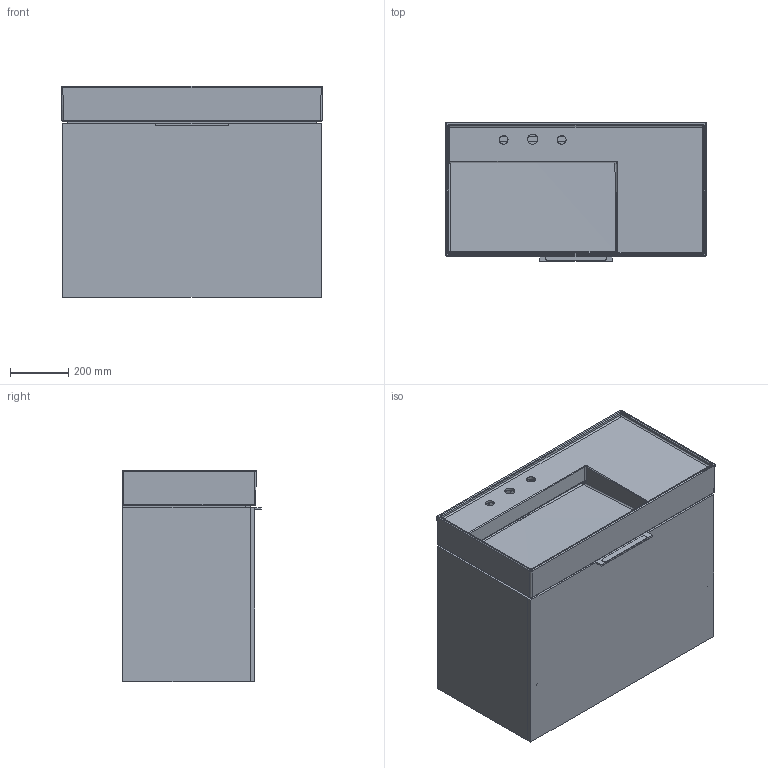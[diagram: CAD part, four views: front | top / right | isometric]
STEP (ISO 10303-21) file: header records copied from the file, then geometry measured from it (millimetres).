
FILE_DESCRIPTION(/* description */ (''),/* implementation_level */ '2;1');
FILE_NAME(/* name */ 'C:\Users\User33\Desktop\Kartell\3D01_407601 - cer.810338.stp',/* time_stamp */ '2018-05-09T10:33:17+02:00',/* author */ ('User33'),/* organization */ (''),/* preprocessor_version */ 'ST-DEVELOPER v16.13',/* originating_system */ 'Autodesk Inventor 2018',/* authorisation */ '');
FILE_SCHEMA (('AUTOMOTIVE_DESIGN { 1 0 10303 214 3 1 1 }'));
Products named in the file (25): Monoblocco 893x617x455 1 cass x cer 810338; Monoblocco 893x617x455 1 cass x cer 810338_1_1; Monoblocco 893x617x455 1 cass x cer 810338_1; Monoblocco 893x617x455 1 cass x cer 810338_1_2; Monoblocco 893x617x455 1 cass x cer 810338_2; Monoblocco 893x617x455 1 cass x cer 810338_3; Monoblocco 893x617x455 1 cass x cer 810338_4; Monoblocco 893x617x455 1 cass x cer 810338_5; Monoblocco 893x617x455 1 cass x cer 810338_6; Monoblocco 893x617x455 1 cass x cer 810338_7; Monoblocco 893x617x455 1 cass x cer 810338_8; Monoblocco 893x617x455 1 cass x cer 810338_10; Monoblocco 893x617x455 1 cass x cer 810338_11; Monoblocco 893x617x455 1 cass x cer 810338_12; Monoblocco 893x617x455 1 cass x cer 810338_13; Monoblocco 893x617x455 1 cass x cer 810338_15; Monoblocco 893x617x455 1 cass x cer 810338_16; Monoblocco 893x617x455 1 cass x cer 810338_17; Monoblocco 893x617x455 1 cass x cer 810338_18; Monoblocco 893x617x455 1 cass x cer 810338_22; Monoblocco 893x617x455 1 cass x cer 810338_23; Monoblocco 893x617x455 1 cass x cer 810338_24; Monoblocco 893x617x455 1 cass x cer 810338_25; Monoblocco 893x617x455 1 cass x cer 810338_26; Monoblocco 893x617x455 1 cass x cer 810338_28
Assembly tree (24 placements, depth 2):
  Monoblocco 893x617x455 1 cass x cer 810338
    Monoblocco 893x617x455 1 cass x cer 810338_1_1
    Monoblocco 893x617x455 1 cass x cer 810338_1
    Monoblocco 893x617x455 1 cass x cer 810338_1_2
    Monoblocco 893x617x455 1 cass x cer 810338_2
    Monoblocco 893x617x455 1 cass x cer 810338_3
    Monoblocco 893x617x455 1 cass x cer 810338_4
    Monoblocco 893x617x455 1 cass x cer 810338_5
    Monoblocco 893x617x455 1 cass x cer 810338_6
    Monoblocco 893x617x455 1 cass x cer 810338_7
    Monoblocco 893x617x455 1 cass x cer 810338_8
    Monoblocco 893x617x455 1 cass x cer 810338_10
    Monoblocco 893x617x455 1 cass x cer 810338_11
    Monoblocco 893x617x455 1 cass x cer 810338_12
    Monoblocco 893x617x455 1 cass x cer 810338_13
    Monoblocco 893x617x455 1 cass x cer 810338_15
    Monoblocco 893x617x455 1 cass x cer 810338_16
    Monoblocco 893x617x455 1 cass x cer 810338_17
    Monoblocco 893x617x455 1 cass x cer 810338_18
    Monoblocco 893x617x455 1 cass x cer 810338_22
    Monoblocco 893x617x455 1 cass x cer 810338_23
    Monoblocco 893x617x455 1 cass x cer 810338_24
    Monoblocco 893x617x455 1 cass x cer 810338_25
    Monoblocco 893x617x455 1 cass x cer 810338_26
    Monoblocco 893x617x455 1 cass x cer 810338_28
Bounding box: 899.89 x 477.01 x 728 mm (x, y, z)
Volume: 41892536.4 mm3; surface area: 7321904.9 mm2
Topology: 23 solids, 717 shells, 1332 faces, 5015 edges, 4438 vertices
Faces by surface type: plane 579, bspline 367, cylinder 346, sphere 16, cone 14, torus 10
Full cylindrical faces by diameter (mm): 2.5 x2, 4 x8, 4.1 x2, 5.1 x2, 6 x6, 7.2 x2, 10 x2, 12 x2, 12.5 x2
Entity records: 119417 total; most frequent: CARTESIAN_POINT 78240, DIRECTION 7284, ORIENTED_EDGE 6620, EDGE_CURVE 4970, VERTEX_POINT 4436, AXIS2_PLACEMENT_3D 2512, LINE 2260, VECTOR 2260
